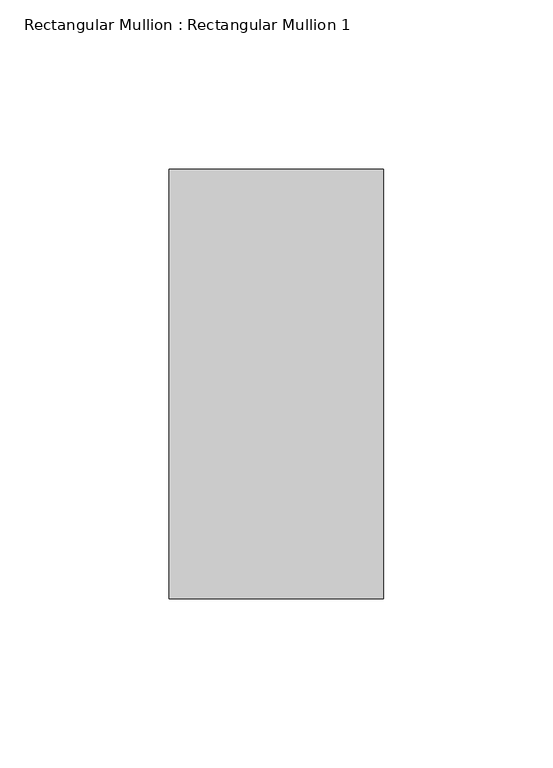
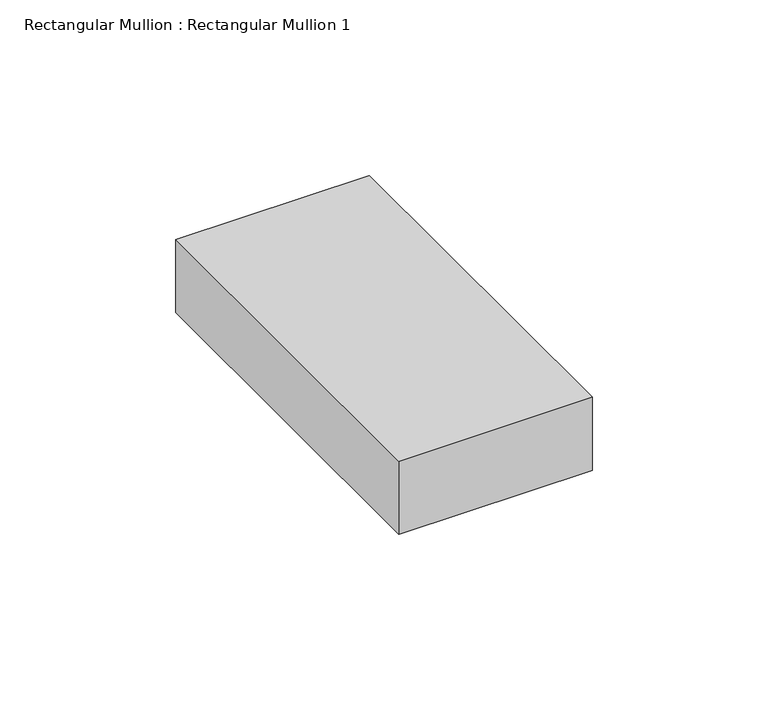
"""IFC4 building model written with IfcOpenShell, lengths in millimetres: member geometry, Rectangular Mullion : Rectangular Mullion 1."""

from ifc_helpers import new_model, si_unit, frame, origin, place, context, project, spatial, polyline, outline, extrude, source, transform, mapped, element, save


def rectangular_mullion_rectangular_mullion_1_6bbe7064(model_context):
    return source(origin(), model_context, "Body", "SweptSolid", [
        extrude(outline(polyline([(31.75, 63.5), (31.75, -63.5), (-31.75, -63.5), (-31.75, 63.5), (31.75, 63.5)])), frame((0.0, 0.0, -25.3999997), z_axis=(0.0, 0.0, 1.0), x_axis=(1.0, 0.0, 0.0)), (0.0, 0.0, 1.0), 25.3999997),
    ])


if __name__ == "__main__":
    model = new_model("IFC4")
    model_context = context("Model", 3, world=origin())
    ifc_project = project(units=[si_unit("LENGTHUNIT", "METRE", prefix="MILLI")], contexts=[model_context])
    site = spatial("IfcSite", under=ifc_project)
    building = spatial("IfcBuilding", under=site)
    placement = place(None, origin())
    rectangular_mullion_rectangular_mullion_1_shape = rectangular_mullion_rectangular_mullion_1_6bbe7064(model_context)
    element("IfcMember", 1, ObjectType="Rectangular Mullion : Rectangular Mullion 1", at=placement, inside=building, context=model_context, shape_type="MappedRepresentation", body=[
        mapped(rectangular_mullion_rectangular_mullion_1_shape, transform((0.0, 0.0, 0.0), x_axis=(1.0, 0.0, 0.0), y_axis=(0.0, 1.0, 0.0), z_axis=(0.0, 0.0, 1.0))),
    ])
    save(model, "model.ifc")
